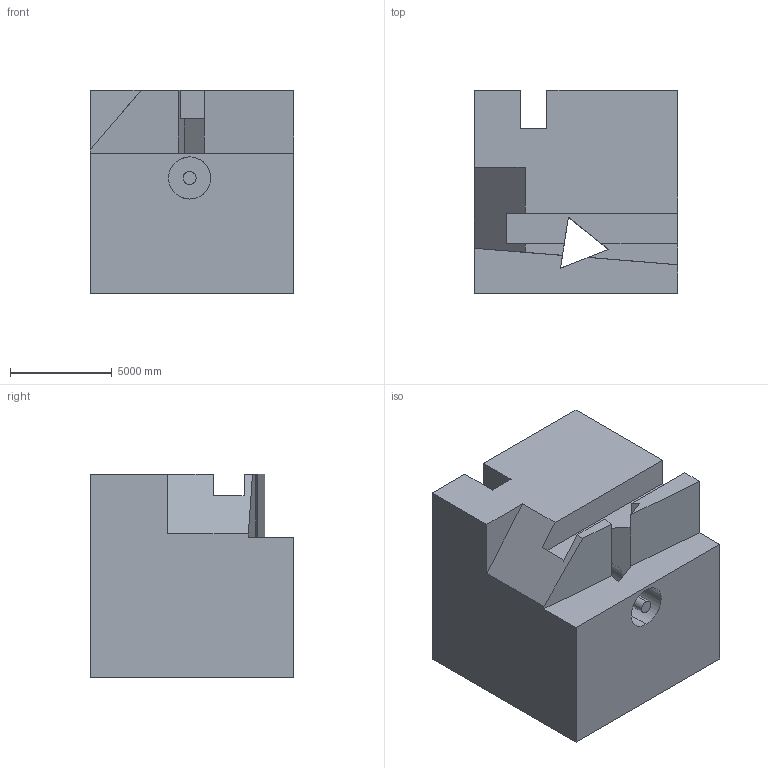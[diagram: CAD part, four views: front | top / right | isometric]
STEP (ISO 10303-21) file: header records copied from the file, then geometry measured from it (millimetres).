
FILE_DESCRIPTION (( 'STEP AP203' ), '1' );
FILE_NAME ('1567.STEP', '2022-08-18T15:50:49', ( 'user' ), ( '' ), 'SwSTEP 2.0', 'SolidWorks 2021', '' );
FILE_SCHEMA (( 'CONFIG_CONTROL_DESIGN' ));
Length unit declared in the file: centimetre
Products named in the file (1): 1567
Bounding box: 10000 x 10000 x 10000 mm (x, y, z)
Volume: 842765964552.3 mm3; surface area: 732748427.8 mm2
Topology: 2 solids, 2 shells, 38 faces, 105 edges, 70 vertices
Faces by surface type: plane 31, cylinder 7
Entity records: 1280 total; most frequent: CARTESIAN_POINT 256, ORIENTED_EDGE 210, DIRECTION 177, EDGE_CURVE 105, LINE 83, VECTOR 83, VERTEX_POINT 70, AXIS2_PLACEMENT_3D 47
